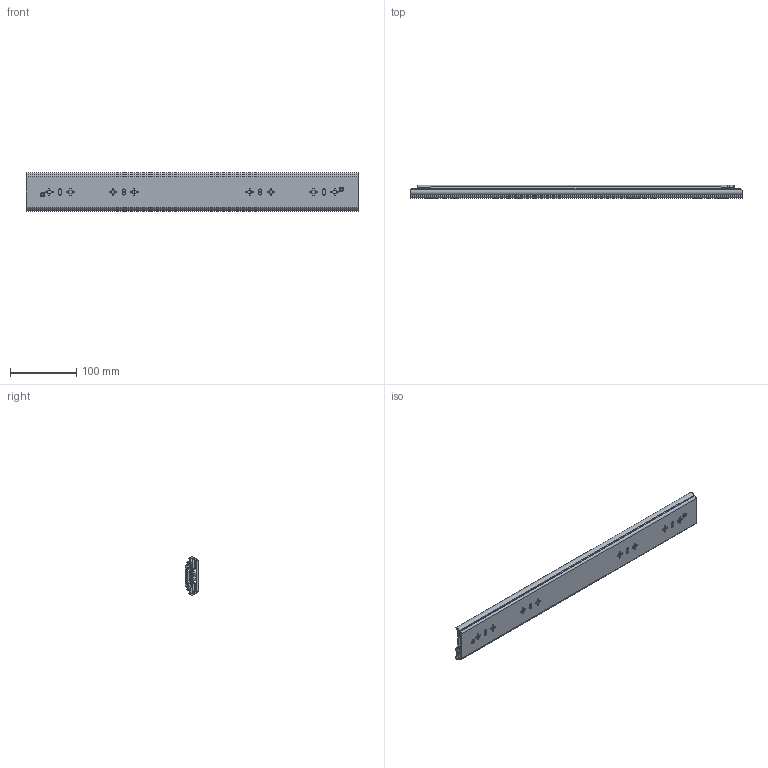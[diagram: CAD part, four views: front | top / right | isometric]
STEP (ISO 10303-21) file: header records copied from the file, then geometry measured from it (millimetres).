
FILE_DESCRIPTION((''),'2;1');
FILE_NAME('1057-C-20_ASM','2025-10-23T',('蔽翩'),(''),'CREO PARAMETRIC BY PTC INC, 2018220','CREO PARAMETRIC BY PTC INC, 2018220','');
FILE_SCHEMA(('CONFIG_CONTROL_DESIGN'));
Products named in the file (21): KP-57-01WEIKE-31; MAODING-WAI; 1057DAZHUJIA-20GE1; 1057ZHUJIADANWEIJIAO12______; 1057-5-6GANZHU1; 1057DAZHUJIA-20GE_11____ASM; 1057-C-20-KE_ASM; KP-57-01ZHONGGUI-28_____; PEIJIAN-22; ZHUANJIAO112; LIUJIAO-DING11; 1057-C-LUN; DINGZI; PEIJIAN-ZHONG_ASM; 1057XIAOZHUJIA___20_; 1057XIAOZHUJIA-20GE__ASM; KP-57-01ZHONGGUI-28______ASM; KP-57-01NEIGUI-241; XIN-JIAOGUAN44; KP-57-01NEIGUI-241_ASM; 1057-C-20_ASM
Assembly tree (83 placements, depth 4):
  1057-C-20_ASM
    1057-C-20-KE_ASM
      KP-57-01WEIKE-31
      MAODING-WAI  x2
      1057DAZHUJIA-20GE_11____ASM
        1057DAZHUJIA-20GE1
        1057ZHUJIADANWEIJIAO12______  x2
        1057-5-6GANZHU1  x28
    KP-57-01ZHONGGUI-28______ASM
      KP-57-01ZHONGGUI-28_____
      PEIJIAN-ZHONG_ASM  x2
        PEIJIAN-22
        ZHUANJIAO112
        LIUJIAO-DING11
        1057-C-LUN
        DINGZI
      MAODING-WAI  x2
      1057XIAOZHUJIA-20GE__ASM
        1057XIAOZHUJIA___20_
        1057-5-6GANZHU1  x28
        1057ZHUJIADANWEIJIAO12______  x2
    KP-57-01NEIGUI-241_ASM
      KP-57-01NEIGUI-241
      XIN-JIAOGUAN44  x2
Bounding box: 500 x 19.8 x 57.67 mm (x, y, z)
Volume: 209401.8 mm3; surface area: 241318.1 mm2
Topology: 81 solids, 81 shells, 2434 faces, 6678 edges, 4178 vertices
Faces by surface type: plane 1086, cylinder 954, sphere 118, torus 104, cone 82, bspline 82, extrusion 8
Entity records: 65440 total; most frequent: CARTESIAN_POINT 14382, DIRECTION 10819, ORIENTED_EDGE 10572, EDGE_CURVE 5286, AXIS2_PLACEMENT_3D 3773, VERTEX_POINT 3407, VECTOR 3273, LINE 3269
